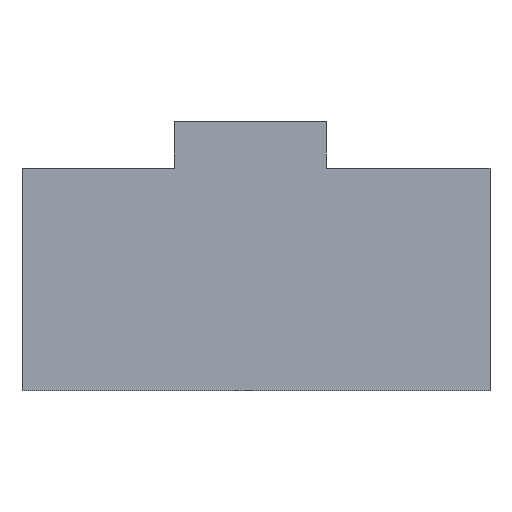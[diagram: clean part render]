
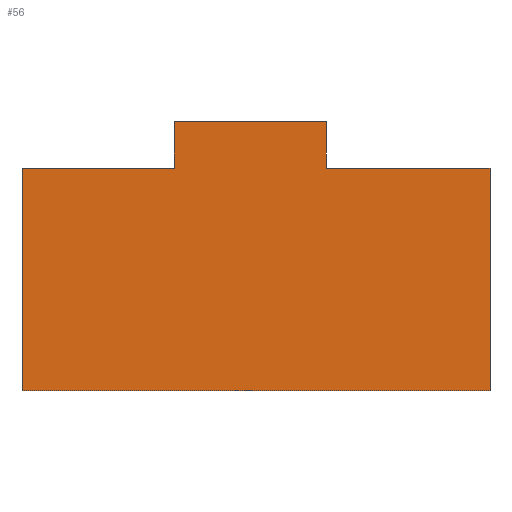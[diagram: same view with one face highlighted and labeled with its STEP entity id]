
A CAD part, front view. The second image highlights one B-rep face of the part: STEP entity #56.
In plain terms, the highlighted planar face has unit normal (0, -1, 0).
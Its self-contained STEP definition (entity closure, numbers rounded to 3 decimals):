
#56=ADVANCED_FACE('',(#73),#74,.T.);
#73=FACE_OUTER_BOUND('',#94,.T.);
#74=PLANE('',#95);
#94=EDGE_LOOP('',(#140,#141,#142,#143,#144,#145,#146,#147));
#95=AXIS2_PLACEMENT_3D('',#148,#149,#150);
#140=ORIENTED_EDGE('',*,*,#200,.T.);
#141=ORIENTED_EDGE('',*,*,#201,.F.);
#142=ORIENTED_EDGE('',*,*,#194,.F.);
#143=ORIENTED_EDGE('',*,*,#198,.F.);
#144=ORIENTED_EDGE('',*,*,#195,.T.);
#145=ORIENTED_EDGE('',*,*,#187,.F.);
#146=ORIENTED_EDGE('',*,*,#189,.T.);
#147=ORIENTED_EDGE('',*,*,#202,.T.);
#148=CARTESIAN_POINT('',(40.,34.,-18.));
#149=DIRECTION('',(0.,-1.0,0.));
#150=DIRECTION('',(-1.0,0.,0.));
#187=EDGE_CURVE('',#213,#209,#215,.T.);
#189=EDGE_CURVE('',#213,#217,#219,.T.);
#194=EDGE_CURVE('',#226,#221,#228,.T.);
#195=EDGE_CURVE('',#229,#209,#230,.T.);
#198=EDGE_CURVE('',#229,#226,#234,.T.);
#200=EDGE_CURVE('',#236,#237,#238,.T.);
#201=EDGE_CURVE('',#221,#237,#239,.T.);
#202=EDGE_CURVE('',#217,#236,#240,.T.);
#209=VERTEX_POINT('',#249);
#213=VERTEX_POINT('',#255);
#215=LINE('',#258,#259);
#217=VERTEX_POINT('',#261);
#219=LINE('',#264,#265);
#221=VERTEX_POINT('',#268);
#226=VERTEX_POINT('',#275);
#228=LINE('',#278,#279);
#229=VERTEX_POINT('',#280);
#230=LINE('',#281,#282);
#234=LINE('',#288,#289);
#236=VERTEX_POINT('',#292);
#237=VERTEX_POINT('',#293);
#238=LINE('',#294,#295);
#239=LINE('',#296,#297);
#240=LINE('',#298,#299);
#249=CARTESIAN_POINT('',(14.0,34.0,1.));
#255=CARTESIAN_POINT('',(1.,34.,1.));
#258=CARTESIAN_POINT('',(1.,34.,1.));
#259=VECTOR('',#315,1.0);
#261=CARTESIAN_POINT('',(1.,34.,-18.));
#264=CARTESIAN_POINT('',(1.,34.,1.));
#265=VECTOR('',#317,0.39);
#268=CARTESIAN_POINT('',(27.,34.0,1.));
#275=CARTESIAN_POINT('',(27.,34.0,5.));
#278=CARTESIAN_POINT('',(27.,34.0,5.));
#279=VECTOR('',#322,0.13);
#280=CARTESIAN_POINT('',(14.0,34.0,5.));
#281=CARTESIAN_POINT('',(14.0,34.0,5.));
#282=VECTOR('',#323,0.13);
#288=CARTESIAN_POINT('',(14.0,34.0,5.));
#289=VECTOR('',#326,1.0);
#292=CARTESIAN_POINT('',(41.,34.,-18.));
#293=CARTESIAN_POINT('',(41.,34.,1.0));
#294=CARTESIAN_POINT('',(41.,34.,1.0));
#295=VECTOR('',#328,1.0);
#296=CARTESIAN_POINT('',(1.,34.,1.));
#297=VECTOR('',#329,1.0);
#298=CARTESIAN_POINT('',(40.,34.,-18.));
#299=VECTOR('',#330,0.19);
#315=DIRECTION('',(1.0,0.,0.));
#317=DIRECTION('',(0.,0.,-1.0));
#322=DIRECTION('',(0.,0.,-1.0));
#323=DIRECTION('',(0.,0.,-1.0));
#326=DIRECTION('',(1.0,0.,0.));
#328=DIRECTION('',(0.,0.,1.0));
#329=DIRECTION('',(1.0,0.,0.));
#330=DIRECTION('',(1.0,0.,0.));
